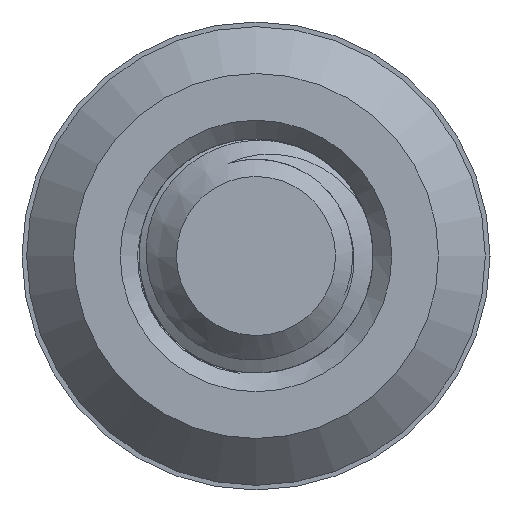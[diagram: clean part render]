
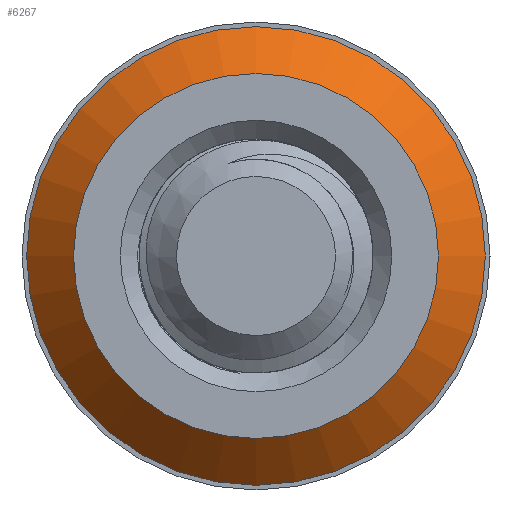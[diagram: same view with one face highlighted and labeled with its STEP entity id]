
A CAD part, front view. The second image highlights one B-rep face of the part: STEP entity #6267.
In plain terms, the highlighted conical face has half-angle 45 degrees and reference radius 3.9 mm.
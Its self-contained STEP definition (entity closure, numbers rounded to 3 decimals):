
#286 = EDGE_CURVE ( 'NONE', #3600, #3600, #621, .T. ) ;
#621 = CIRCLE ( 'NONE', #5960, 4.9 ) ;
#682 = FACE_OUTER_BOUND ( 'NONE', #5797, .T. ) ;
#1205 = EDGE_CURVE ( 'NONE', #6472, #6472, #3876, .T. ) ;
#1305 = ORIENTED_EDGE ( 'NONE', *, *, #286, .F. ) ;
#1564 = ORIENTED_EDGE ( 'NONE', *, *, #1205, .F. ) ;
#1584 = EDGE_LOOP ( 'NONE', ( #1564 ) ) ;
#1811 = DIRECTION ( 'NONE',  ( 0., 1., 0. ) ) ;
#2376 = DIRECTION ( 'NONE',  ( -1., 0., 0. ) ) ;
#2425 = AXIS2_PLACEMENT_3D ( 'NONE', #5040, #7366, #7470 ) ;
#3600 = VERTEX_POINT ( 'NONE', #5275 ) ;
#3876 = CIRCLE ( 'NONE', #5946, 3.9 ) ;
#4064 = CARTESIAN_POINT ( 'NONE',  ( -6.469, -13.448, 25.4 ) ) ;
#4067 = CONICAL_SURFACE ( 'NONE', #2425, 3.9, 0.785 ) ;
#5040 = CARTESIAN_POINT ( 'NONE',  ( -2.569, -13.448, 25.4 ) ) ;
#5275 = CARTESIAN_POINT ( 'NONE',  ( -7.469, -12.448, 25.4 ) ) ;
#5406 = FACE_BOUND ( 'NONE', #1584, .T. ) ;
#5479 = CARTESIAN_POINT ( 'NONE',  ( -2.569, -13.448, 25.4 ) ) ;
#5596 = DIRECTION ( 'NONE',  ( -1., 0., 0. ) ) ;
#5797 = EDGE_LOOP ( 'NONE', ( #1305 ) ) ;
#5946 = AXIS2_PLACEMENT_3D ( 'NONE', #5479, #6127, #2376 ) ;
#5960 = AXIS2_PLACEMENT_3D ( 'NONE', #7476, #1811, #5596 ) ;
#6127 = DIRECTION ( 'NONE',  ( 0., -1., 0. ) ) ;
#6267 = ADVANCED_FACE ( 'NONE', ( #682, #5406 ), #4067, .T. ) ;
#6472 = VERTEX_POINT ( 'NONE', #4064 ) ;
#7366 = DIRECTION ( 'NONE',  ( 0., 1., 0. ) ) ;
#7470 = DIRECTION ( 'NONE',  ( -1., 0., 0. ) ) ;
#7476 = CARTESIAN_POINT ( 'NONE',  ( -2.569, -12.448, 25.4 ) ) ;
